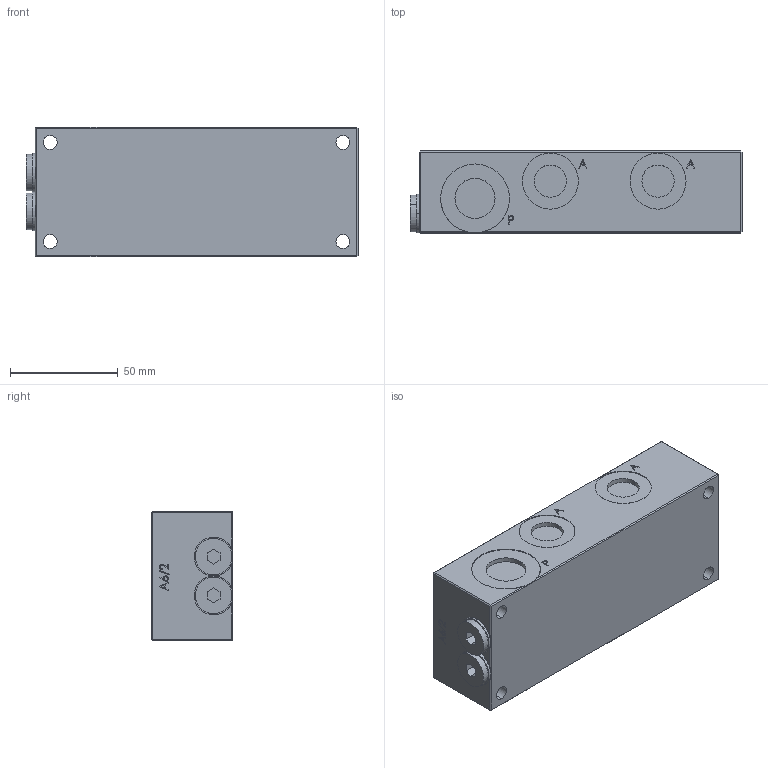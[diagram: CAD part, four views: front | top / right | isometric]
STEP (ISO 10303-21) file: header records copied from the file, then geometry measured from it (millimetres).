
FILE_DESCRIPTION (( 'STEP AP214' ), '1' );
FILE_NAME ('A6_2.STEP', '2017-05-01T14:01:36', ( '' ), ( '' ), 'SwSTEP 2.0', 'SolidWorks 2016', '' );
FILE_SCHEMA (( 'AUTOMOTIVE_DESIGN' ));
Length unit declared in the file: millimetre
Products named in the file (1): A6_2
Bounding box: 154.2 x 38.01 x 60 mm (x, y, z)
Volume: 331737.8 mm3; surface area: 43450.7 mm2
Topology: 3 solids, 5 shells, 318 faces, 749 edges, 492 vertices
Faces by surface type: plane 179, cylinder 88, bspline 39, cone 12
Entity records: 14363 total; most frequent: CARTESIAN_POINT 4125, ORIENTED_EDGE 1498, DIRECTION 1373, EDGE_CURVE 749, VERTEX_POINT 492, VECTOR 469, LINE 469, AXIS2_PLACEMENT_3D 452
